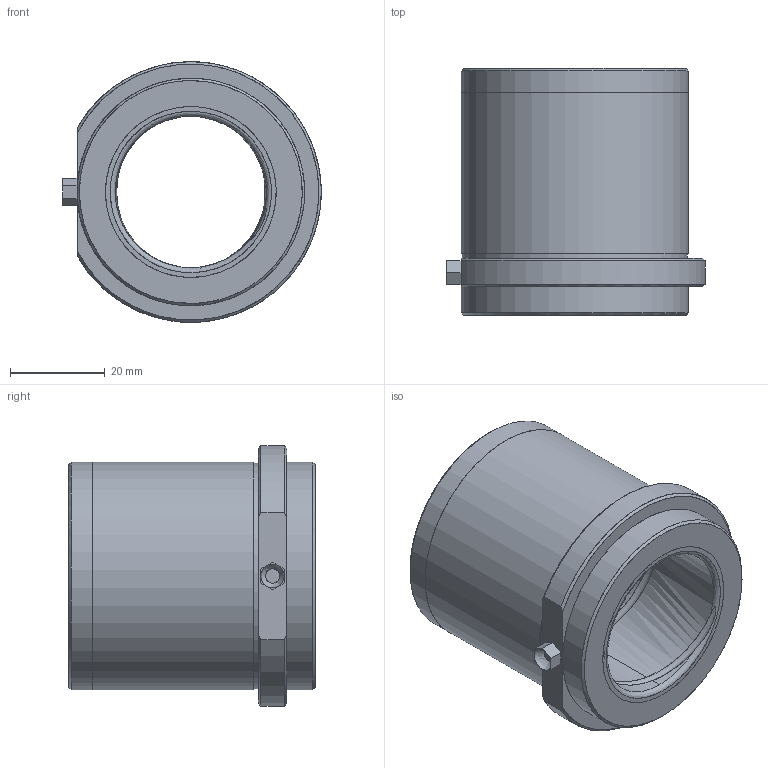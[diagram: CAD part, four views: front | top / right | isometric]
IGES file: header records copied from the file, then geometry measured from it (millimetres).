
Start section: Missler Software BP 521, 31674 Labege Cedex, France Tel   : +33 (0)5 61 00 03 00 Fax   : +33 (0)5 61 00 03 03 Email : sup.topsolid@topsolid.com
Global section: file name: C:\Documents and Settings\EXPER\Desktop\Cuma\24 03 2009\D26\D26_32X40.igs; native system: TopSolid v605250 Missler Software; preprocessor: IGES preprocessor v100000; date: 030102.053158; units: millimetre
Bounding box: 54.48 x 52 x 55 mm (x, y, z)
Surface area: 27796.3 mm2 (no closed solid volume)
Topology: 0 solids, 0 shells, 53 faces, 965 edges, 944 vertices
Faces by surface type: bspline 53
